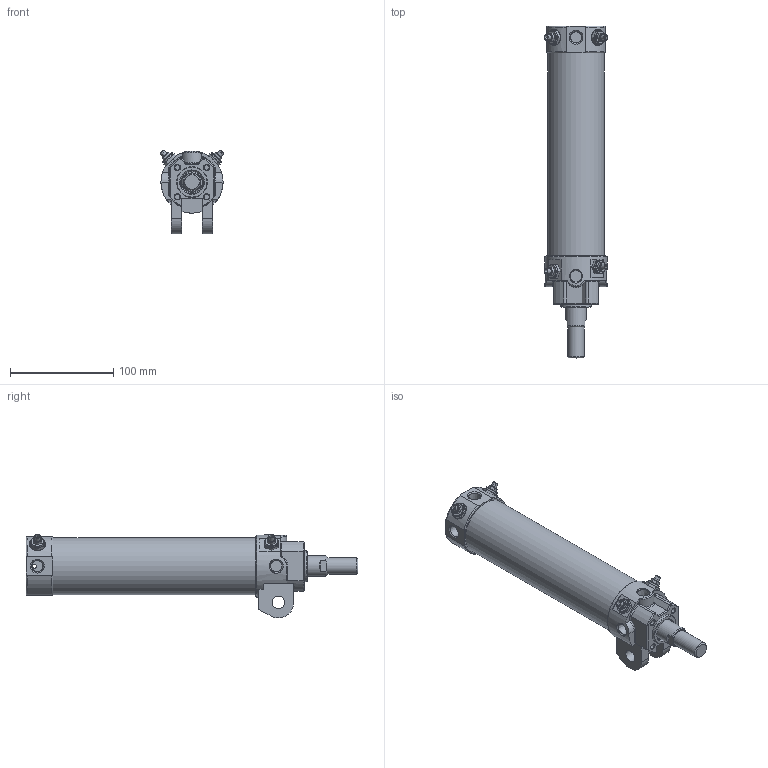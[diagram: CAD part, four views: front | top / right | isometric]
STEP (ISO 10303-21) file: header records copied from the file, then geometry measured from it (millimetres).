
FILE_DESCRIPTION((''),'2;1');
FILE_NAME('I:\3D電子目錄\氣缸\DCK\DCK\DCK-1B-50x150.stp','2008-02-26T14:15:25',('Administrator'),(''),'Autodesk Inventor 11','Autodesk Inventor 11','');
FILE_SCHEMA(('AUTOMOTIVE_DESIGN { 1 0 10303 214 1 1 1 1 }'));
Length unit declared in the file: millimetre
Products named in the file (6): DCK-1B-50; 緩衝針; 緩衝針-1; 緩衝針-201; 緩衝針-3
Assembly tree (8 placements, depth 3):
  DCK-1B-50
    DCK-1B-50
    緩衝針  x4
      緩衝針-1
      緩衝針-201
      緩衝針-3
Bounding box: 61.76 x 321 x 80.87 mm (x, y, z)
Volume: 254633.5 mm3; surface area: 126944.2 mm2
Topology: 15 solids, 15 shells, 570 faces, 1270 edges, 794 vertices
Faces by surface type: plane 213, cylinder 168, cone 133, torus 30, bspline 26
Full cylindrical faces by diameter (mm): 2 x2, 3 x4, 3.8 x2, 4 x6, 4.6 x4, 5 x8, 5.1 x4, 5.2 x12, 5.5 x4, 7.25 x1, 7.9 x4, 8 x2, 10.3 x1, 11.3 x1, 12 x4, 12.8 x4, 16 x2, 20 x1, 21 x1, 22 x2, 23 x1, 24.7 x1, 26 x1, 27 x1, 28 x1, 29 x1, 30 x1, 33 x1, 49.5 x1, 52 x2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
Entity records: 11478 total; most frequent: CARTESIAN_POINT 4706, DIRECTION 1374, ORIENTED_EDGE 1222, EDGE_CURVE 611, AXIS2_PLACEMENT_3D 598, EDGE_LOOP 497, VERTEX_POINT 444, FACE_OUTER_BOUND 321
